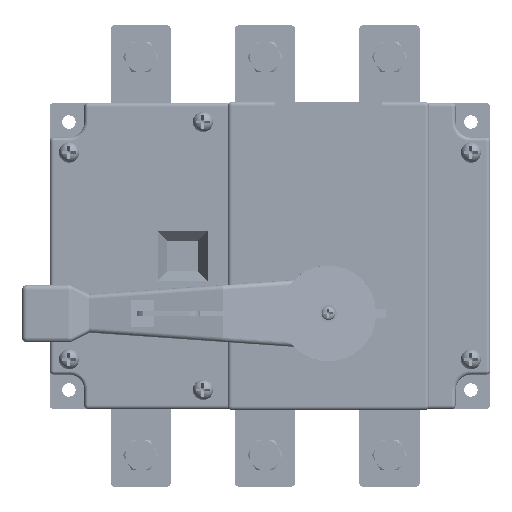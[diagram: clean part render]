
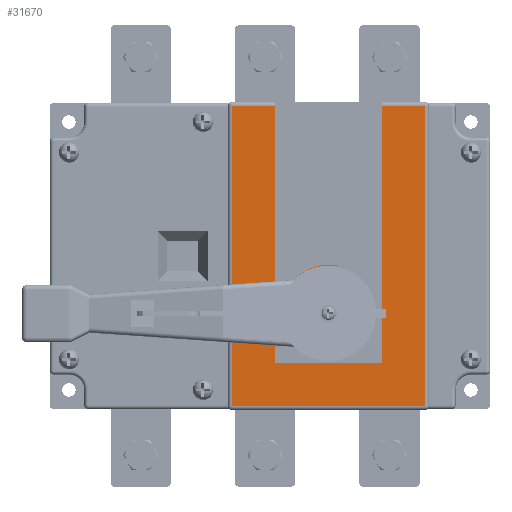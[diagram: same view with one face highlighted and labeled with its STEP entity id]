
A CAD part, front view. The second image highlights one B-rep face of the part: STEP entity #31670.
In plain terms, the highlighted planar face has unit normal (0, -1, 0).
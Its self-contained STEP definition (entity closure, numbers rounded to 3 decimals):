
#29466=CARTESIAN_POINT('',(0.,0.,-30.));
#29467=DIRECTION('',(0.,-1.,0.));
#29468=DIRECTION('',(-1.,0.,0.));
#29469=AXIS2_PLACEMENT_3D('',#29466,#29467,#29468);
#29504=CARTESIAN_POINT('',(0.,0.,-30.));
#29505=DIRECTION('',(0.,-1.,0.));
#29506=DIRECTION('',(0.476,0.,0.879));
#29507=AXIS2_PLACEMENT_3D('',#29504,#29505,#29506);
#29517=DIRECTION('',(0.,0.,1.));
#29518=VECTOR('',#29517,157.);
#29519=CARTESIAN_POINT('',(50.5,0.,-78.5));
#29520=LINE('',#29519,#29518);
#29521=DIRECTION('',(1.,0.,0.));
#29522=VECTOR('',#29521,101.);
#29523=CARTESIAN_POINT('',(-50.5,0.,-78.5));
#29524=LINE('',#29523,#29522);
#29525=DIRECTION('',(0.,0.,-1.));
#29526=VECTOR('',#29525,157.);
#29527=CARTESIAN_POINT('',(-50.5,0.,78.5));
#29528=LINE('',#29527,#29526);
#29529=DIRECTION('',(-1.,0.,0.));
#29530=VECTOR('',#29529,22.5);
#29531=CARTESIAN_POINT('',(-28.,0.,78.5));
#29532=LINE('',#29531,#29530);
#29533=DIRECTION('',(-1.,0.,0.));
#29534=VECTOR('',#29533,4.843);
#29535=CARTESIAN_POINT('',(-23.157,0.,-24.));
#29536=LINE('',#29535,#29534);
#29537=CARTESIAN_POINT('',(0.,0.,-28.));
#29538=DIRECTION('',(0.,-1.,0.));
#29539=DIRECTION('',(0.213,0.,0.977));
#29540=AXIS2_PLACEMENT_3D('',#29537,#29538,#29539);
#29542=DIRECTION('',(1.,0.,0.));
#29543=VECTOR('',#29542,18.767);
#29544=CARTESIAN_POINT('',(-28.,0.,-35.));
#29545=LINE('',#29544,#29543);
#29546=DIRECTION('',(0.,0.,-1.));
#29547=VECTOR('',#29546,21.);
#29548=CARTESIAN_POINT('',(-28.,0.,-35.));
#29549=LINE('',#29548,#29547);
#29550=DIRECTION('',(1.,0.,0.));
#29551=VECTOR('',#29550,56.);
#29552=CARTESIAN_POINT('',(-28.,0.,-56.));
#29553=LINE('',#29552,#29551);
#29554=DIRECTION('',(-1.,0.,0.));
#29555=VECTOR('',#29554,22.5);
#29556=CARTESIAN_POINT('',(50.5,0.,78.5));
#29557=LINE('',#29556,#29555);
#29598=DIRECTION('',(0.,0.,-1.));
#29599=VECTOR('',#29598,134.5);
#29600=CARTESIAN_POINT('',(28.,0.,78.5));
#29601=LINE('',#29600,#29599);
#29614=DIRECTION('',(0.,0.,1.));
#29615=VECTOR('',#29614,102.5);
#29616=CARTESIAN_POINT('',(-28.,0.,-24.));
#29617=LINE('',#29616,#29615);
#29725=DIRECTION('',(0.,0.,1.));
#29726=VECTOR('',#29725,15.729);
#29727=CARTESIAN_POINT('',(5.,0.,-20.767));
#29728=LINE('',#29727,#29726);
#30180=CARTESIAN_POINT('',(-28.,0.,-56.));
#30181=CARTESIAN_POINT('',(28.,0.,-56.));
#30182=VERTEX_POINT('',#30180);
#30183=VERTEX_POINT('',#30181);
#30188=CARTESIAN_POINT('',(5.,0.,-5.038));
#30189=CARTESIAN_POINT('',(-23.157,0.,-24.));
#30190=VERTEX_POINT('',#30188);
#30191=VERTEX_POINT('',#30189);
#30202=CARTESIAN_POINT('',(-28.,0.,-35.));
#30203=VERTEX_POINT('',#30202);
#30204=CARTESIAN_POINT('',(-28.,0.,-24.));
#30205=VERTEX_POINT('',#30204);
#30206=CARTESIAN_POINT('',(-10.5,0.,-30.));
#30207=CARTESIAN_POINT('',(-9.233,0.,-35.));
#30208=VERTEX_POINT('',#30206);
#30209=VERTEX_POINT('',#30207);
#30210=CARTESIAN_POINT('',(5.,0.,-20.767));
#30211=VERTEX_POINT('',#30210);
#30482=CARTESIAN_POINT('',(50.5,0.,-78.5));
#30483=CARTESIAN_POINT('',(50.5,0.,78.5));
#30484=VERTEX_POINT('',#30482);
#30485=VERTEX_POINT('',#30483);
#30496=CARTESIAN_POINT('',(-50.5,0.,-78.5));
#30497=VERTEX_POINT('',#30496);
#30506=CARTESIAN_POINT('',(-50.5,0.,78.5));
#30507=VERTEX_POINT('',#30506);
#30524=CARTESIAN_POINT('',(28.,0.,78.5));
#30525=VERTEX_POINT('',#30524);
#30526=CARTESIAN_POINT('',(-28.,0.,78.5));
#30527=VERTEX_POINT('',#30526);
#31635=CARTESIAN_POINT('',(0.,0.,0.));
#31636=DIRECTION('',(0.,1.,0.));
#31637=DIRECTION('',(1.,0.,0.));
#31638=AXIS2_PLACEMENT_3D('',#31635,#31636,#31637);
#31639=PLANE('',#31638);
#31641=ORIENTED_EDGE('',*,*,#31640,.F.);
#31643=ORIENTED_EDGE('',*,*,#31642,.F.);
#31645=ORIENTED_EDGE('',*,*,#31644,.F.);
#31647=ORIENTED_EDGE('',*,*,#31646,.F.);
#31649=ORIENTED_EDGE('',*,*,#31648,.F.);
#31651=ORIENTED_EDGE('',*,*,#31650,.F.);
#31653=ORIENTED_EDGE('',*,*,#31652,.F.);
#31655=ORIENTED_EDGE('',*,*,#31654,.F.);
#31656=ORIENTED_EDGE('',*,*,#31624,.T.);
#31657=ORIENTED_EDGE('',*,*,#31582,.T.);
#31659=ORIENTED_EDGE('',*,*,#31658,.F.);
#31661=ORIENTED_EDGE('',*,*,#31660,.T.);
#31663=ORIENTED_EDGE('',*,*,#31662,.T.);
#31665=ORIENTED_EDGE('',*,*,#31664,.F.);
#31667=ORIENTED_EDGE('',*,*,#31666,.F.);
#31668=EDGE_LOOP('',(#31641,#31643,#31645,#31647,#31649,#31651,#31653,#31655,
#31656,#31657,#31659,#31661,#31663,#31665,#31667));
#31669=FACE_OUTER_BOUND('',#31668,.F.);
#31670=ADVANCED_FACE('',(#31669),#31639,.F.);
#29470=CIRCLE('',#29469,10.5);
#29508=CIRCLE('',#29507,10.5);
#29541=CIRCLE('',#29540,23.5);
#31582=EDGE_CURVE('',#30208,#30209,#29470,.T.);
#31624=EDGE_CURVE('',#30211,#30208,#29508,.T.);
#31640=EDGE_CURVE('',#30484,#30485,#29520,.T.);
#31642=EDGE_CURVE('',#30497,#30484,#29524,.T.);
#31644=EDGE_CURVE('',#30507,#30497,#29528,.T.);
#31646=EDGE_CURVE('',#30527,#30507,#29532,.T.);
#31648=EDGE_CURVE('',#30205,#30527,#29617,.T.);
#31650=EDGE_CURVE('',#30191,#30205,#29536,.T.);
#31652=EDGE_CURVE('',#30190,#30191,#29541,.T.);
#31654=EDGE_CURVE('',#30211,#30190,#29728,.T.);
#31658=EDGE_CURVE('',#30203,#30209,#29545,.T.);
#31660=EDGE_CURVE('',#30203,#30182,#29549,.T.);
#31662=EDGE_CURVE('',#30182,#30183,#29553,.T.);
#31664=EDGE_CURVE('',#30525,#30183,#29601,.T.);
#31666=EDGE_CURVE('',#30485,#30525,#29557,.T.);
